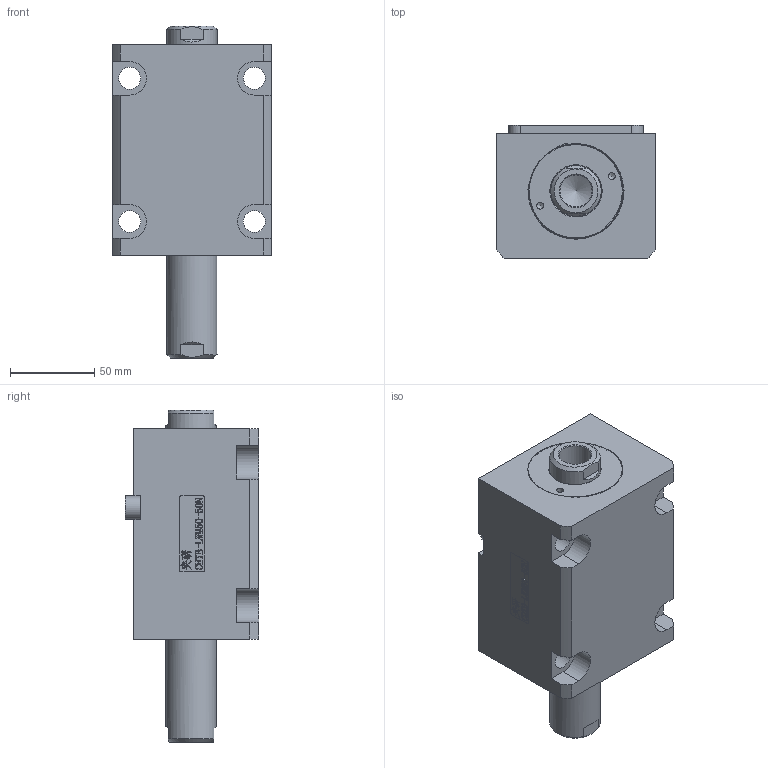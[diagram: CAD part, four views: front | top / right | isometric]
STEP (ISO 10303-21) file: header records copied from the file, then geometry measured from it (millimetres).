
FILE_DESCRIPTION(/* description */ (''),/* implementation_level */ '2;1');
FILE_NAME(/* name */ 'CHTB-LWM50-50N.stp',/* time_stamp */ '2022-04-29T18:11:49+08:00',/* author */ (''),/* organization */ (''),/* preprocessor_version */ 'ST-DEVELOPER v16.7',/* originating_system */ 'SIEMENS PLM Software NX 12.0',/* authorisation */ '');
FILE_SCHEMA (('AUTOMOTIVE_DESIGN { 1 0 10303 214 3 1 1 1 }'));
Length unit declared in the file: millimetre
Products named in the file (1): CHTB-LWM50-50N
Bounding box: 94 x 79 x 197 mm (x, y, z)
Volume: 785740.6 mm3; surface area: 127705 mm2
Topology: 3 solids, 3 shells, 476 faces, 1321 edges, 890 vertices
Faces by surface type: plane 319, extrusion 83, cylinder 44, torus 11, cone 11, bspline 8
Full cylindrical faces by diameter (mm): 4 x2, 5 x2, 12 x2, 13 x4, 19 x2, 30 x4, 39 x1, 44 x2, 46 x1, 50 x5, 59 x1
Entity records: 22238 total; most frequent: CARTESIAN_POINT 8249, ORIENTED_EDGE 2514, DIRECTION 1964, EDGE_CURVE 1257, VECTOR 986, LINE 903, VERTEX_POINT 880, EDGE_LOOP 581
